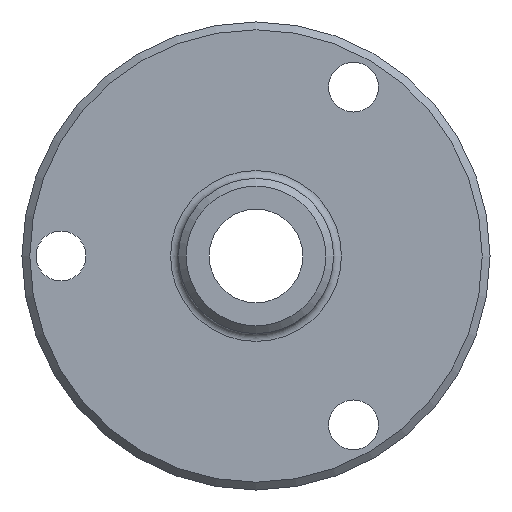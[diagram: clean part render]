
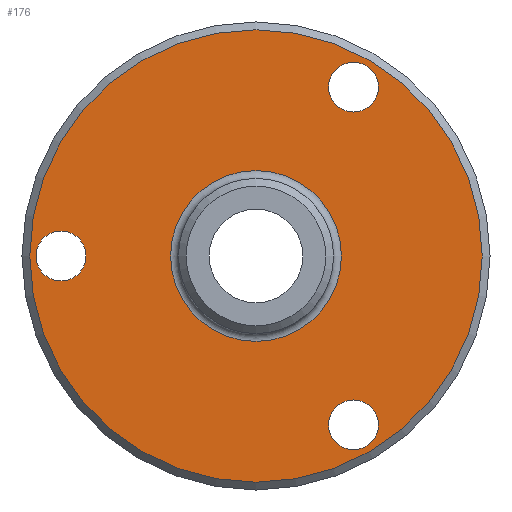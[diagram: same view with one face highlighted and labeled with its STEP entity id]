
A CAD part, left-side view. The second image highlights one B-rep face of the part: STEP entity #176.
In plain terms, the highlighted planar face has unit normal (-1, 0, 0).
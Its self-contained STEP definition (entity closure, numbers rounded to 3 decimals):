
#18=PLANE('',#205);
#26=FACE_BOUND('',#63,.T.);
#27=FACE_BOUND('',#64,.T.);
#28=FACE_BOUND('',#65,.T.);
#29=FACE_BOUND('',#66,.T.);
#45=FACE_OUTER_BOUND('',#62,.T.);
#62=EDGE_LOOP('',(#142));
#63=EDGE_LOOP('',(#143));
#64=EDGE_LOOP('',(#144));
#65=EDGE_LOOP('',(#145));
#66=EDGE_LOOP('',(#146));
#87=CIRCLE('',#195,1.6);
#89=CIRCLE('',#198,1.6);
#91=CIRCLE('',#201,1.6);
#93=CIRCLE('',#204,5.475);
#94=CIRCLE('',#206,14.5);
#103=VERTEX_POINT('',#286);
#105=VERTEX_POINT('',#291);
#107=VERTEX_POINT('',#296);
#109=VERTEX_POINT('',#301);
#110=VERTEX_POINT('',#304);
#119=EDGE_CURVE('',#103,#103,#87,.T.);
#121=EDGE_CURVE('',#105,#105,#89,.T.);
#123=EDGE_CURVE('',#107,#107,#91,.T.);
#125=EDGE_CURVE('',#109,#109,#93,.T.);
#126=EDGE_CURVE('',#110,#110,#94,.T.);
#142=ORIENTED_EDGE('',*,*,#126,.F.);
#143=ORIENTED_EDGE('',*,*,#119,.T.);
#144=ORIENTED_EDGE('',*,*,#121,.T.);
#145=ORIENTED_EDGE('',*,*,#123,.T.);
#146=ORIENTED_EDGE('',*,*,#125,.F.);
#176=ADVANCED_FACE('',(#45,#26,#27,#28,#29),#18,.T.);
#195=AXIS2_PLACEMENT_3D('',#287,#228,#229);
#198=AXIS2_PLACEMENT_3D('',#292,#234,#235);
#201=AXIS2_PLACEMENT_3D('',#297,#240,#241);
#204=AXIS2_PLACEMENT_3D('',#302,#246,#247);
#205=AXIS2_PLACEMENT_3D('',#303,#248,#249);
#206=AXIS2_PLACEMENT_3D('',#305,#250,#251);
#228=DIRECTION('center_axis',(1.,0.,0.));
#229=DIRECTION('ref_axis',(0.,0.866,-0.5));
#234=DIRECTION('center_axis',(1.,0.,0.));
#235=DIRECTION('ref_axis',(0.,-0.866,-0.5));
#240=DIRECTION('center_axis',(1.,0.,0.));
#241=DIRECTION('ref_axis',(0.,0.,1.));
#246=DIRECTION('center_axis',(-1.,0.,0.));
#247=DIRECTION('ref_axis',(0.,-1.,0.));
#248=DIRECTION('center_axis',(-1.,0.,0.));
#249=DIRECTION('ref_axis',(0.,0.,1.));
#250=DIRECTION('center_axis',(1.,0.,0.));
#251=DIRECTION('ref_axis',(0.,-1.,0.));
#286=CARTESIAN_POINT('',(-6.,-4.864,-11.625));
#287=CARTESIAN_POINT('Origin',(-6.,-6.25,-10.825));
#291=CARTESIAN_POINT('',(-6.,-7.636,10.025));
#292=CARTESIAN_POINT('Origin',(-6.,-6.25,10.825));
#296=CARTESIAN_POINT('',(-6.,12.5,1.6));
#297=CARTESIAN_POINT('Origin',(-6.,12.5,0.));
#301=CARTESIAN_POINT('',(-6.,5.475,0.));
#302=CARTESIAN_POINT('Origin',(-6.,0.,0.));
#303=CARTESIAN_POINT('Origin',(-6.,9.988,0.));
#304=CARTESIAN_POINT('',(-6.,14.5,0.));
#305=CARTESIAN_POINT('Origin',(-6.,0.,0.));
